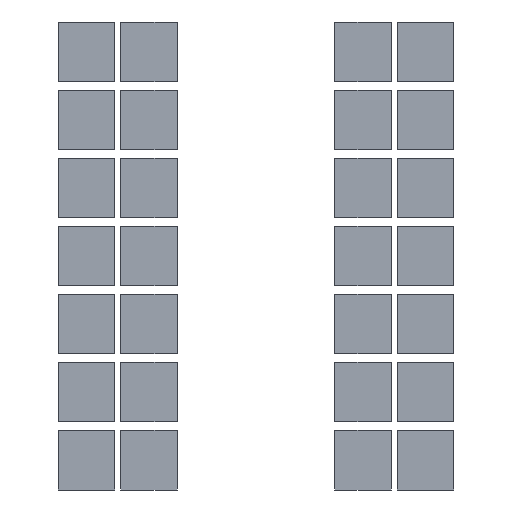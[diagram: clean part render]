
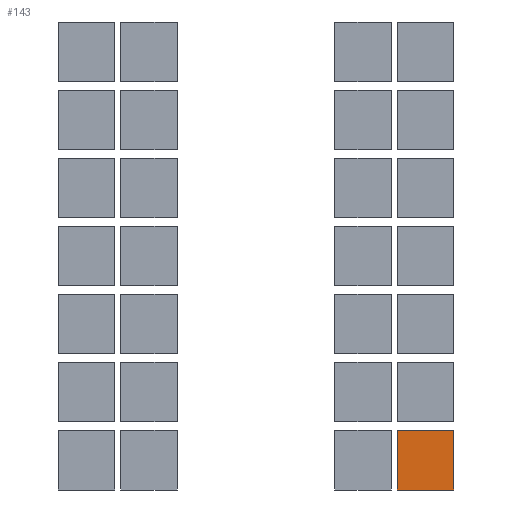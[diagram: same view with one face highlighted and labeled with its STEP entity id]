
A CAD part, left-side view. The second image highlights one B-rep face of the part: STEP entity #143.
In plain terms, the highlighted planar face has unit normal (-1, 0, 0).
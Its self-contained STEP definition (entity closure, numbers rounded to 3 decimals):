
#143 = ADVANCED_FACE('',(#144),#158,.F.);
#144 = FACE_BOUND('',#145,.F.);
#145 = EDGE_LOOP('',(#146,#181,#209,#237));
#146 = ORIENTED_EDGE('',*,*,#147,.F.);
#147 = EDGE_CURVE('',#148,#150,#152,.T.);
#148 = VERTEX_POINT('',#149);
#149 = CARTESIAN_POINT('',(-0.4,-20.,-21.));
#150 = VERTEX_POINT('',#151);
#151 = CARTESIAN_POINT('',(-0.4,-20.,21.));
#152 = SURFACE_CURVE('',#153,(#157,#169),.PCURVE_S1.);
#153 = LINE('',#154,#155);
#154 = CARTESIAN_POINT('',(-0.4,-20.,-21.));
#155 = VECTOR('',#156,1.);
#156 = DIRECTION('',(0.,0.,1.));
#157 = PCURVE('',#158,#163);
#158 = PLANE('',#159);
#159 = AXIS2_PLACEMENT_3D('',#160,#161,#162);
#160 = CARTESIAN_POINT('',(-0.4,-20.,-21.));
#161 = DIRECTION('',(1.,0.,-0.));
#162 = DIRECTION('',(0.,0.,1.));
#163 = DEFINITIONAL_REPRESENTATION('',(#164),#168);
#164 = LINE('',#165,#166);
#165 = CARTESIAN_POINT('',(0.,0.));
#166 = VECTOR('',#167,1.);
#167 = DIRECTION('',(1.,0.));
#168 = ( GEOMETRIC_REPRESENTATION_CONTEXT(2) 
PARAMETRIC_REPRESENTATION_CONTEXT() REPRESENTATION_CONTEXT('2D SPACE',''
  ) );
#169 = PCURVE('',#170,#175);
#170 = PLANE('',#171);
#171 = AXIS2_PLACEMENT_3D('',#172,#173,#174);
#172 = CARTESIAN_POINT('',(-0.4,-20.,-21.));
#173 = DIRECTION('',(-0.,1.,0.));
#174 = DIRECTION('',(0.,0.,1.));
#175 = DEFINITIONAL_REPRESENTATION('',(#176),#180);
#176 = LINE('',#177,#178);
#177 = CARTESIAN_POINT('',(0.,0.));
#178 = VECTOR('',#179,1.);
#179 = DIRECTION('',(1.,0.));
#180 = ( GEOMETRIC_REPRESENTATION_CONTEXT(2) 
PARAMETRIC_REPRESENTATION_CONTEXT() REPRESENTATION_CONTEXT('2D SPACE',''
  ) );
#181 = ORIENTED_EDGE('',*,*,#182,.T.);
#182 = EDGE_CURVE('',#148,#183,#185,.T.);
#183 = VERTEX_POINT('',#184);
#184 = CARTESIAN_POINT('',(-0.4,20.,-21.));
#185 = SURFACE_CURVE('',#186,(#190,#197),.PCURVE_S1.);
#186 = LINE('',#187,#188);
#187 = CARTESIAN_POINT('',(-0.4,-20.,-21.));
#188 = VECTOR('',#189,1.);
#189 = DIRECTION('',(-0.,1.,0.));
#190 = PCURVE('',#158,#191);
#191 = DEFINITIONAL_REPRESENTATION('',(#192),#196);
#192 = LINE('',#193,#194);
#193 = CARTESIAN_POINT('',(0.,0.));
#194 = VECTOR('',#195,1.);
#195 = DIRECTION('',(0.,-1.));
#196 = ( GEOMETRIC_REPRESENTATION_CONTEXT(2) 
PARAMETRIC_REPRESENTATION_CONTEXT() REPRESENTATION_CONTEXT('2D SPACE',''
  ) );
#197 = PCURVE('',#198,#203);
#198 = PLANE('',#199);
#199 = AXIS2_PLACEMENT_3D('',#200,#201,#202);
#200 = CARTESIAN_POINT('',(-0.4,-20.,-21.));
#201 = DIRECTION('',(0.,0.,1.));
#202 = DIRECTION('',(1.,0.,-0.));
#203 = DEFINITIONAL_REPRESENTATION('',(#204),#208);
#204 = LINE('',#205,#206);
#205 = CARTESIAN_POINT('',(0.,0.));
#206 = VECTOR('',#207,1.);
#207 = DIRECTION('',(0.,1.));
#208 = ( GEOMETRIC_REPRESENTATION_CONTEXT(2) 
PARAMETRIC_REPRESENTATION_CONTEXT() REPRESENTATION_CONTEXT('2D SPACE',''
  ) );
#209 = ORIENTED_EDGE('',*,*,#210,.T.);
#210 = EDGE_CURVE('',#183,#211,#213,.T.);
#211 = VERTEX_POINT('',#212);
#212 = CARTESIAN_POINT('',(-0.4,20.,21.));
#213 = SURFACE_CURVE('',#214,(#218,#225),.PCURVE_S1.);
#214 = LINE('',#215,#216);
#215 = CARTESIAN_POINT('',(-0.4,20.,-21.));
#216 = VECTOR('',#217,1.);
#217 = DIRECTION('',(0.,0.,1.));
#218 = PCURVE('',#158,#219);
#219 = DEFINITIONAL_REPRESENTATION('',(#220),#224);
#220 = LINE('',#221,#222);
#221 = CARTESIAN_POINT('',(0.,-40.));
#222 = VECTOR('',#223,1.);
#223 = DIRECTION('',(1.,0.));
#224 = ( GEOMETRIC_REPRESENTATION_CONTEXT(2) 
PARAMETRIC_REPRESENTATION_CONTEXT() REPRESENTATION_CONTEXT('2D SPACE',''
  ) );
#225 = PCURVE('',#226,#231);
#226 = PLANE('',#227);
#227 = AXIS2_PLACEMENT_3D('',#228,#229,#230);
#228 = CARTESIAN_POINT('',(-0.4,20.,-21.));
#229 = DIRECTION('',(-0.,1.,0.));
#230 = DIRECTION('',(0.,0.,1.));
#231 = DEFINITIONAL_REPRESENTATION('',(#232),#236);
#232 = LINE('',#233,#234);
#233 = CARTESIAN_POINT('',(0.,0.));
#234 = VECTOR('',#235,1.);
#235 = DIRECTION('',(1.,0.));
#236 = ( GEOMETRIC_REPRESENTATION_CONTEXT(2) 
PARAMETRIC_REPRESENTATION_CONTEXT() REPRESENTATION_CONTEXT('2D SPACE',''
  ) );
#237 = ORIENTED_EDGE('',*,*,#238,.F.);
#238 = EDGE_CURVE('',#150,#211,#239,.T.);
#239 = SURFACE_CURVE('',#240,(#244,#251),.PCURVE_S1.);
#240 = LINE('',#241,#242);
#241 = CARTESIAN_POINT('',(-0.4,-20.,21.));
#242 = VECTOR('',#243,1.);
#243 = DIRECTION('',(-0.,1.,0.));
#244 = PCURVE('',#158,#245);
#245 = DEFINITIONAL_REPRESENTATION('',(#246),#250);
#246 = LINE('',#247,#248);
#247 = CARTESIAN_POINT('',(42.,0.));
#248 = VECTOR('',#249,1.);
#249 = DIRECTION('',(0.,-1.));
#250 = ( GEOMETRIC_REPRESENTATION_CONTEXT(2) 
PARAMETRIC_REPRESENTATION_CONTEXT() REPRESENTATION_CONTEXT('2D SPACE',''
  ) );
#251 = PCURVE('',#252,#257);
#252 = PLANE('',#253);
#253 = AXIS2_PLACEMENT_3D('',#254,#255,#256);
#254 = CARTESIAN_POINT('',(-0.4,-20.,21.));
#255 = DIRECTION('',(0.,0.,1.));
#256 = DIRECTION('',(1.,0.,-0.));
#257 = DEFINITIONAL_REPRESENTATION('',(#258),#262);
#258 = LINE('',#259,#260);
#259 = CARTESIAN_POINT('',(0.,0.));
#260 = VECTOR('',#261,1.);
#261 = DIRECTION('',(0.,1.));
#262 = ( GEOMETRIC_REPRESENTATION_CONTEXT(2) 
PARAMETRIC_REPRESENTATION_CONTEXT() REPRESENTATION_CONTEXT('2D SPACE',''
  ) );
